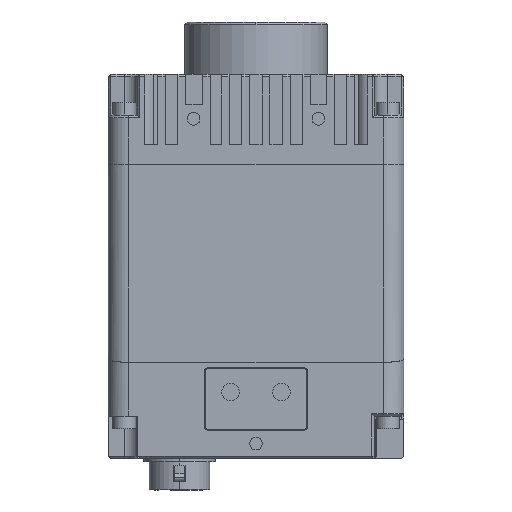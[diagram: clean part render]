
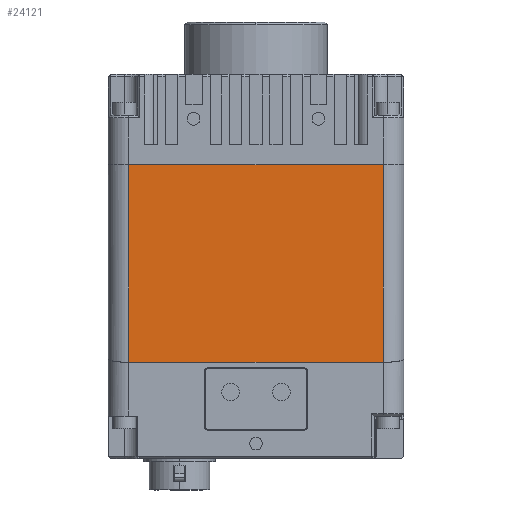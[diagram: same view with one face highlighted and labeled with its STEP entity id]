
A CAD part, front view. The second image highlights one B-rep face of the part: STEP entity #24121.
In plain terms, the highlighted planar face has unit normal (0, -1, 0).
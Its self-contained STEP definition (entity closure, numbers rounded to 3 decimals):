
#1277 = ORIENTED_EDGE ( 'NONE', *, *, #15636, .T. ) ;
#3237 = LINE ( 'NONE', #74945, #34864 ) ;
#4506 = EDGE_CURVE ( 'NONE', #42273, #37997, #8786, .T. ) ;
#4544 = DIRECTION ( 'NONE',  ( 1., 0., 0. ) ) ;
#5554 = VECTOR ( 'NONE', #4544, 1000. ) ;
#7238 = VERTEX_POINT ( 'NONE', #7636 ) ;
#7636 = CARTESIAN_POINT ( 'NONE',  ( -56.963, -28.403, -8.412 ) ) ;
#8786 = LINE ( 'NONE', #46346, #57317 ) ;
#15636 = EDGE_CURVE ( 'NONE', #7238, #19527, #3237, .T. ) ;
#19527 = VERTEX_POINT ( 'NONE', #23990 ) ;
#22436 = CARTESIAN_POINT ( 'NONE',  ( -6.963, -28.403, -47.202 ) ) ;
#23990 = CARTESIAN_POINT ( 'NONE',  ( -56.963, -28.403, -47.202 ) ) ;
#24121 = ADVANCED_FACE ( 'NONE', ( #66804 ), #63184, .T. ) ;
#26435 = ORIENTED_EDGE ( 'NONE', *, *, #4506, .T. ) ;
#28939 = AXIS2_PLACEMENT_3D ( 'NONE', #69526, #31661, #75848 ) ;
#29027 = DIRECTION ( 'NONE',  ( -1., 0., 0. ) ) ;
#31661 = DIRECTION ( 'NONE',  ( 0., -1., 0. ) ) ;
#34864 = VECTOR ( 'NONE', #43480, 1000. ) ;
#35233 = CARTESIAN_POINT ( 'NONE',  ( -6.963, -28.403, -8.412 ) ) ;
#37997 = VERTEX_POINT ( 'NONE', #35233 ) ;
#42105 = VECTOR ( 'NONE', #29027, 1000. ) ;
#42273 = VERTEX_POINT ( 'NONE', #22436 ) ;
#43480 = DIRECTION ( 'NONE',  ( 0., 0., -1. ) ) ;
#45547 = EDGE_CURVE ( 'NONE', #7238, #37997, #56029, .T. ) ;
#46346 = CARTESIAN_POINT ( 'NONE',  ( -6.963, -28.403, 76.151 ) ) ;
#49829 = EDGE_CURVE ( 'NONE', #42273, #19527, #73694, .T. ) ;
#50503 = EDGE_LOOP ( 'NONE', ( #53724, #26435, #59043, #1277 ) ) ;
#52706 = DIRECTION ( 'NONE',  ( 0., 0., 1. ) ) ;
#53724 = ORIENTED_EDGE ( 'NONE', *, *, #49829, .F. ) ;
#55160 = CARTESIAN_POINT ( 'NONE',  ( -56.963, -28.403, -8.412 ) ) ;
#56029 = LINE ( 'NONE', #55160, #5554 ) ;
#57317 = VECTOR ( 'NONE', #52706, 1000. ) ;
#59043 = ORIENTED_EDGE ( 'NONE', *, *, #45547, .F. ) ;
#63184 = PLANE ( 'NONE',  #28939 ) ;
#66804 = FACE_OUTER_BOUND ( 'NONE', #50503, .T. ) ;
#69526 = CARTESIAN_POINT ( 'NONE',  ( -5.963, -28.403, 76.151 ) ) ;
#73694 = LINE ( 'NONE', #79521, #42105 ) ;
#74945 = CARTESIAN_POINT ( 'NONE',  ( -56.963, -28.403, 76.151 ) ) ;
#75848 = DIRECTION ( 'NONE',  ( 0., 0., 1. ) ) ;
#79521 = CARTESIAN_POINT ( 'NONE',  ( -5.963, -28.403, -47.202 ) ) ;
